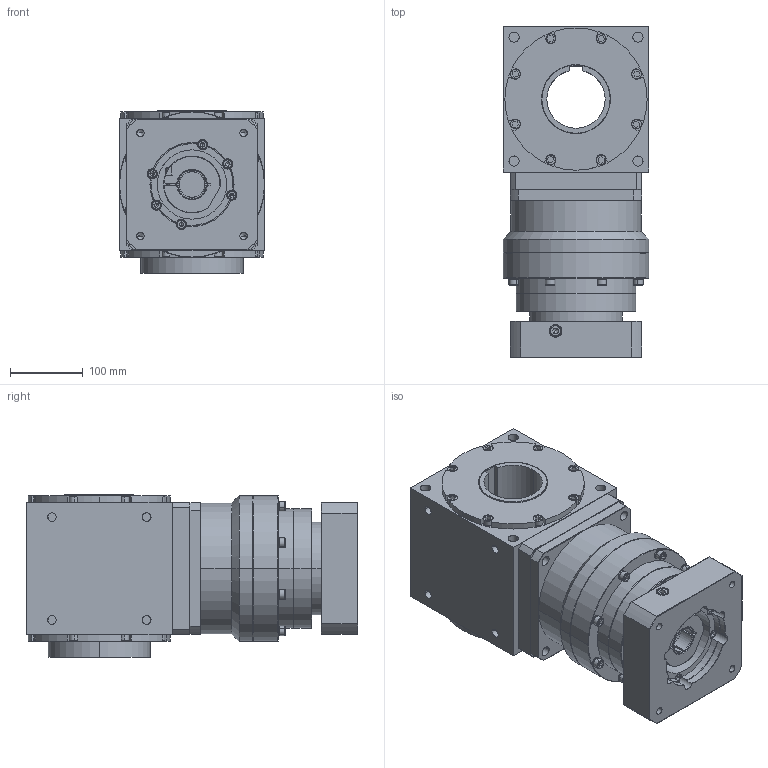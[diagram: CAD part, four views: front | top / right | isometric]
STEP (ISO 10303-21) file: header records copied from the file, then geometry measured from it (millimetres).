
FILE_DESCRIPTION (( 'STEP AP203' ), '1' );
FILE_NAME ('AAW200AS-L2-RFK 35-114.3-200-M12.STEP', '2024-12-24T09:10:50', ( '' ), ( '' ), 'SwSTEP 2.0', 'SolidWorks 2021', '' );
FILE_SCHEMA (( 'CONFIG_CONTROL_DESIGN' ));
Length unit declared in the file: millimetre
Products named in the file (3): AAW200AS-L2-RFK 35-114.3-200-M12; AAW200AS-RFK; KS180L2-114.3-35-83-M12-200俋倛芞
Assembly tree (2 placements, depth 2):
  AAW200AS-L2-RFK 35-114.3-200-M12
    AAW200AS-RFK
    KS180L2-114.3-35-83-M12-200俋倛芞
Bounding box: 200 x 454.5 x 222.5 mm (x, y, z)
Volume: 13457164.8 mm3; surface area: 835592.1 mm2
Topology: 45 solids, 45 shells, 1437 faces, 3460 edges, 2150 vertices
Faces by surface type: plane 686, cylinder 515, cone 196, bspline 40
Entity records: 42305 total; most frequent: CARTESIAN_POINT 8402, DIRECTION 7352, ORIENTED_EDGE 6744, EDGE_CURVE 3372, AXIS2_PLACEMENT_3D 2796, VERTEX_POINT 2150, VECTOR 1760, LINE 1760
